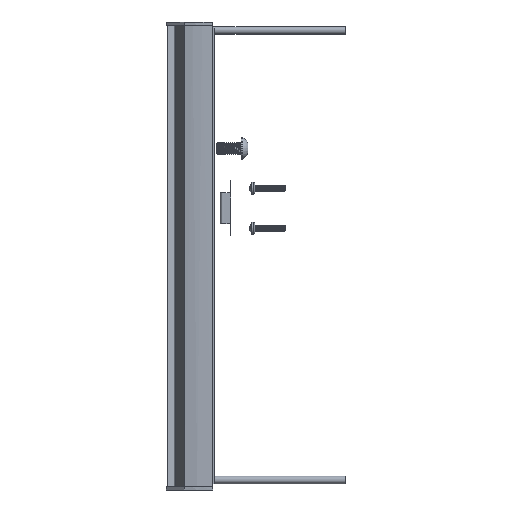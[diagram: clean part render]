
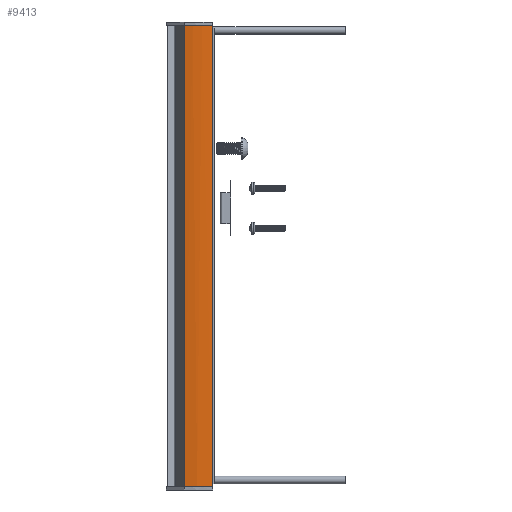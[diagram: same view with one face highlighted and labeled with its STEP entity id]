
A CAD part, front view. The second image highlights one B-rep face of the part: STEP entity #9413.
In plain terms, the highlighted free-form (B-spline) face has degree [5, 1] with [15, 2] control points.
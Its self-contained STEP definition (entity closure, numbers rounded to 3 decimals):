
#84=(
BOUNDED_CURVE()
B_SPLINE_CURVE(5,(#15517,#15518,#15519,#15520,#15521,#15522,#15523,#15524,
#15525,#15526,#15527,#15528,#15529,#15530,#15531),.UNSPECIFIED.,.F.,.F.)
B_SPLINE_CURVE_WITH_KNOTS((6,1,1,1,1,1,1,1,1,1,6),(0.009,
0.1,0.2,0.3,0.4,0.5,0.6,0.7,0.8,0.9,1.),.UNSPECIFIED.)
CURVE()
GEOMETRIC_REPRESENTATION_ITEM()
RATIONAL_B_SPLINE_CURVE((1.,1.,1.,1.,1.,1.,1.,1.,1.,1.,1.,1.,1.,1.,1.))
REPRESENTATION_ITEM('')
);
#85=(
BOUNDED_CURVE()
B_SPLINE_CURVE(5,(#15533,#15534,#15535,#15536,#15537,#15538,#15539,#15540,
#15541,#15542,#15543,#15544,#15545,#15546,#15547),.UNSPECIFIED.,.F.,.F.)
B_SPLINE_CURVE_WITH_KNOTS((6,1,1,1,1,1,1,1,1,1,6),(-1.,-0.9,-0.8,-0.7,-0.6,
-0.5,-0.4,-0.3,-0.2,-0.1,-0.009),.UNSPECIFIED.)
CURVE()
GEOMETRIC_REPRESENTATION_ITEM()
RATIONAL_B_SPLINE_CURVE((1.,1.,1.,1.,1.,1.,1.,1.,1.,1.,1.,1.,1.,1.,1.))
REPRESENTATION_ITEM('')
);
#336=(
BOUNDED_SURFACE()
B_SPLINE_SURFACE(5,1,((#15486,#15487),(#15488,#15489),(#15490,#15491),(#15492,
#15493),(#15494,#15495),(#15496,#15497),(#15498,#15499),(#15500,#15501),
(#15502,#15503),(#15504,#15505),(#15506,#15507),(#15508,#15509),(#15510,
#15511),(#15512,#15513),(#15514,#15515)),.UNSPECIFIED.,.F.,.F.,.F.)
B_SPLINE_SURFACE_WITH_KNOTS((6,1,1,1,1,1,1,1,1,1,6),(2,2),(-1.,-0.9,-0.8,
-0.7,-0.6,-0.5,-0.4,-0.3,-0.2,-0.1,-0.009),(0.,30.),
 .UNSPECIFIED.)
GEOMETRIC_REPRESENTATION_ITEM()
RATIONAL_B_SPLINE_SURFACE(((1.,1.),(1.,1.),(1.,1.),(1.,1.),(1.,1.),(1.,
1.),(1.,1.),(1.,1.),(1.,1.),(1.,1.),(1.,1.),(1.,1.),(1.,1.),(1.,1.),(1.,
1.)))
REPRESENTATION_ITEM('')
SURFACE()
);
#776=LINE('',#15485,#1445);
#777=LINE('',#15548,#1446);
#1445=VECTOR('',#11379,10.);
#1446=VECTOR('',#11380,10.);
#2308=FACE_OUTER_BOUND('',#2845,.T.);
#2845=EDGE_LOOP('',(#6836,#6837,#6838,#6839));
#4109=VERTEX_POINT('',#15481);
#4110=VERTEX_POINT('',#15483);
#4111=VERTEX_POINT('',#15516);
#4112=VERTEX_POINT('',#15532);
#5170=EDGE_CURVE('',#4109,#4110,#776,.T.);
#5171=EDGE_CURVE('',#4109,#4111,#84,.T.);
#5172=EDGE_CURVE('',#4112,#4110,#85,.T.);
#5173=EDGE_CURVE('',#4111,#4112,#777,.T.);
#6836=ORIENTED_EDGE('',*,*,#5171,.F.);
#6837=ORIENTED_EDGE('',*,*,#5170,.T.);
#6838=ORIENTED_EDGE('',*,*,#5172,.F.);
#6839=ORIENTED_EDGE('',*,*,#5173,.F.);
#9413=ADVANCED_FACE('',(#2308),#336,.T.);
#11379=DIRECTION('',(0.,0.,-1.));
#11380=DIRECTION('',(0.,0.,-1.));
#15481=CARTESIAN_POINT('',(-116.507,-20.833,0.));
#15483=CARTESIAN_POINT('',(-116.507,-20.833,-300.));
#15485=CARTESIAN_POINT('',(-116.507,-20.833,0.));
#15486=CARTESIAN_POINT('Ctrl Pts',(-98.25,-22.234,
0.));
#15487=CARTESIAN_POINT('Ctrl Pts',(-98.25,-22.234,
-300.));
#15488=CARTESIAN_POINT('Ctrl Pts',(-98.683,-22.245,
0.));
#15489=CARTESIAN_POINT('Ctrl Pts',(-98.683,-22.245,
-300.));
#15490=CARTESIAN_POINT('Ctrl Pts',(-99.544,-22.264,
0.));
#15491=CARTESIAN_POINT('Ctrl Pts',(-99.544,-22.264,
-300.));
#15492=CARTESIAN_POINT('Ctrl Pts',(-100.819,-22.282,
0.));
#15493=CARTESIAN_POINT('Ctrl Pts',(-100.819,-22.282,
-300.));
#15494=CARTESIAN_POINT('Ctrl Pts',(-102.485,-22.286,
0.));
#15495=CARTESIAN_POINT('Ctrl Pts',(-102.485,-22.286,
-300.));
#15496=CARTESIAN_POINT('Ctrl Pts',(-104.507,-22.254,
0.));
#15497=CARTESIAN_POINT('Ctrl Pts',(-104.507,-22.254,
-300.));
#15498=CARTESIAN_POINT('Ctrl Pts',(-106.464,-22.182,
0.));
#15499=CARTESIAN_POINT('Ctrl Pts',(-106.464,-22.182,
-300.));
#15500=CARTESIAN_POINT('Ctrl Pts',(-108.347,-22.066,
0.));
#15501=CARTESIAN_POINT('Ctrl Pts',(-108.347,-22.066,
-300.));
#15502=CARTESIAN_POINT('Ctrl Pts',(-110.153,-21.903,0.));
#15503=CARTESIAN_POINT('Ctrl Pts',(-110.153,-21.903,-300.));
#15504=CARTESIAN_POINT('Ctrl Pts',(-111.882,-21.693,
0.));
#15505=CARTESIAN_POINT('Ctrl Pts',(-111.882,-21.693,
-300.));
#15506=CARTESIAN_POINT('Ctrl Pts',(-113.51,-21.444,
0.));
#15507=CARTESIAN_POINT('Ctrl Pts',(-113.51,-21.444,
-300.));
#15508=CARTESIAN_POINT('Ctrl Pts',(-114.754,-21.214,0.));
#15509=CARTESIAN_POINT('Ctrl Pts',(-114.754,-21.214,-300.));
#15510=CARTESIAN_POINT('Ctrl Pts',(-115.654,-21.027,
0.));
#15511=CARTESIAN_POINT('Ctrl Pts',(-115.654,-21.027,
-300.));
#15512=CARTESIAN_POINT('Ctrl Pts',(-116.233,-20.897,
0.));
#15513=CARTESIAN_POINT('Ctrl Pts',(-116.233,-20.897,
-300.));
#15514=CARTESIAN_POINT('Ctrl Pts',(-116.507,-20.833,
0.));
#15515=CARTESIAN_POINT('Ctrl Pts',(-116.507,-20.833,
-300.));
#15516=CARTESIAN_POINT('',(-98.25,-22.234,0.));
#15517=CARTESIAN_POINT('Ctrl Pts',(-116.507,-20.833,
0.));
#15518=CARTESIAN_POINT('Ctrl Pts',(-116.233,-20.897,
0.));
#15519=CARTESIAN_POINT('Ctrl Pts',(-115.654,-21.027,
0.));
#15520=CARTESIAN_POINT('Ctrl Pts',(-114.754,-21.214,0.));
#15521=CARTESIAN_POINT('Ctrl Pts',(-113.51,-21.444,
0.));
#15522=CARTESIAN_POINT('Ctrl Pts',(-111.882,-21.693,
0.));
#15523=CARTESIAN_POINT('Ctrl Pts',(-110.153,-21.903,0.));
#15524=CARTESIAN_POINT('Ctrl Pts',(-108.347,-22.066,
0.));
#15525=CARTESIAN_POINT('Ctrl Pts',(-106.464,-22.182,
0.));
#15526=CARTESIAN_POINT('Ctrl Pts',(-104.507,-22.254,
0.));
#15527=CARTESIAN_POINT('Ctrl Pts',(-102.485,-22.286,
0.));
#15528=CARTESIAN_POINT('Ctrl Pts',(-100.819,-22.282,
0.));
#15529=CARTESIAN_POINT('Ctrl Pts',(-99.544,-22.264,
0.));
#15530=CARTESIAN_POINT('Ctrl Pts',(-98.683,-22.245,
0.));
#15531=CARTESIAN_POINT('Ctrl Pts',(-98.25,-22.234,
0.));
#15532=CARTESIAN_POINT('',(-98.25,-22.234,-300.));
#15533=CARTESIAN_POINT('Ctrl Pts',(-98.25,-22.234,
-300.));
#15534=CARTESIAN_POINT('Ctrl Pts',(-98.683,-22.245,
-300.));
#15535=CARTESIAN_POINT('Ctrl Pts',(-99.544,-22.264,
-300.));
#15536=CARTESIAN_POINT('Ctrl Pts',(-100.819,-22.282,
-300.));
#15537=CARTESIAN_POINT('Ctrl Pts',(-102.485,-22.286,
-300.));
#15538=CARTESIAN_POINT('Ctrl Pts',(-104.507,-22.254,
-300.));
#15539=CARTESIAN_POINT('Ctrl Pts',(-106.464,-22.182,
-300.));
#15540=CARTESIAN_POINT('Ctrl Pts',(-108.347,-22.066,
-300.));
#15541=CARTESIAN_POINT('Ctrl Pts',(-110.153,-21.903,-300.));
#15542=CARTESIAN_POINT('Ctrl Pts',(-111.882,-21.693,
-300.));
#15543=CARTESIAN_POINT('Ctrl Pts',(-113.51,-21.444,
-300.));
#15544=CARTESIAN_POINT('Ctrl Pts',(-114.754,-21.214,-300.));
#15545=CARTESIAN_POINT('Ctrl Pts',(-115.654,-21.027,
-300.));
#15546=CARTESIAN_POINT('Ctrl Pts',(-116.233,-20.897,
-300.));
#15547=CARTESIAN_POINT('Ctrl Pts',(-116.507,-20.833,
-300.));
#15548=CARTESIAN_POINT('',(-98.25,-22.234,0.));
